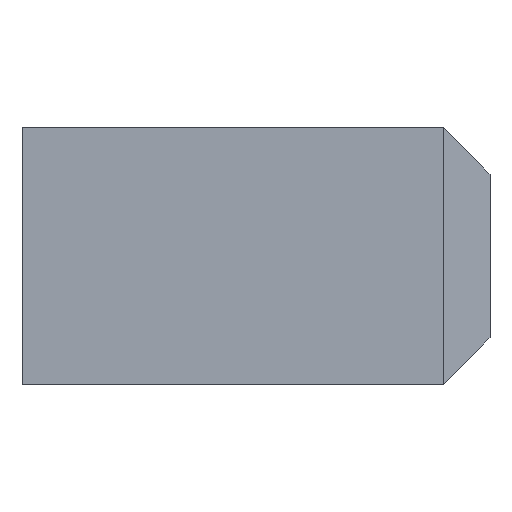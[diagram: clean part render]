
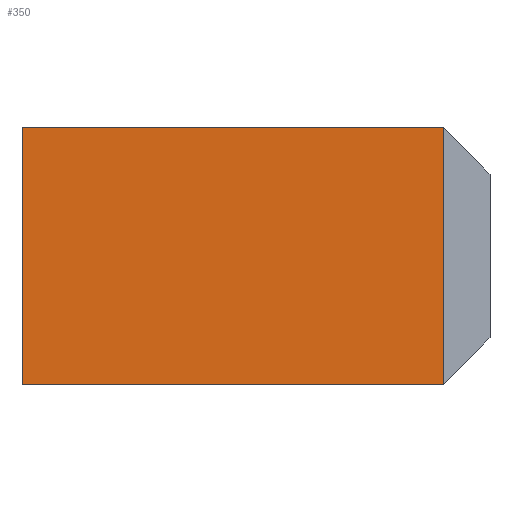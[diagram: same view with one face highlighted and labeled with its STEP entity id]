
A CAD part, left-side view. The second image highlights one B-rep face of the part: STEP entity #350.
In plain terms, the highlighted planar face has unit normal (-1, 0, 0).
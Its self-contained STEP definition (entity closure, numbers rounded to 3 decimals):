
#57=CARTESIAN_POINT('Line Origine',(-40.,40.,0.)) ;
#61=CARTESIAN_POINT('Vertex',(-40.,40.,-11.)) ;
#63=CARTESIAN_POINT('Vertex',(-40.,40.,11.)) ;
#320=CARTESIAN_POINT('Axis2P3D Location',(-40.,0.,0.)) ;
#325=CARTESIAN_POINT('Line Origine',(-40.,4.,0.)) ;
#329=CARTESIAN_POINT('Vertex',(-40.,4.,11.)) ;
#331=CARTESIAN_POINT('Vertex',(-40.,4.,-11.)) ;
#334=CARTESIAN_POINT('Line Origine',(-40.,22.,11.)) ;
#339=CARTESIAN_POINT('Line Origine',(-40.,22.,-11.)) ;
#58=DIRECTION('Vector Direction',(0.,0.,1.)) ;
#321=DIRECTION('Axis2P3D Direction',(1.,0.,0.)) ;
#322=DIRECTION('Axis2P3D XDirection',(0.,0.,-1.)) ;
#326=DIRECTION('Vector Direction',(0.,0.,-1.)) ;
#335=DIRECTION('Vector Direction',(0.,-1.,0.)) ;
#340=DIRECTION('Vector Direction',(0.,1.,0.)) ;
#323=AXIS2_PLACEMENT_3D('Plane Axis2P3D',#320,#321,#322) ;
#345=ORIENTED_EDGE('',*,*,#333,.F.) ;
#346=ORIENTED_EDGE('',*,*,#338,.F.) ;
#347=ORIENTED_EDGE('',*,*,#65,.F.) ;
#348=ORIENTED_EDGE('',*,*,#343,.F.) ;
#59=VECTOR('Line Direction',#58,1.) ;
#327=VECTOR('Line Direction',#326,1.) ;
#336=VECTOR('Line Direction',#335,1.) ;
#341=VECTOR('Line Direction',#340,1.) ;
#350=ADVANCED_FACE('761-040080',(#349),#324,.F.) ;
#65=EDGE_CURVE('',#62,#64,#60,.T.) ;
#333=EDGE_CURVE('',#330,#332,#328,.T.) ;
#338=EDGE_CURVE('',#64,#330,#337,.T.) ;
#343=EDGE_CURVE('',#332,#62,#342,.T.) ;
#344=EDGE_LOOP('',(#345,#346,#347,#348)) ;
#349=FACE_OUTER_BOUND('',#344,.T.) ;
#60=LINE('Line',#57,#59) ;
#328=LINE('Line',#325,#327) ;
#337=LINE('Line',#334,#336) ;
#342=LINE('Line',#339,#341) ;
#324=PLANE('Plane',#323) ;
#62=VERTEX_POINT('',#61) ;
#64=VERTEX_POINT('',#63) ;
#330=VERTEX_POINT('',#329) ;
#332=VERTEX_POINT('',#331) ;
